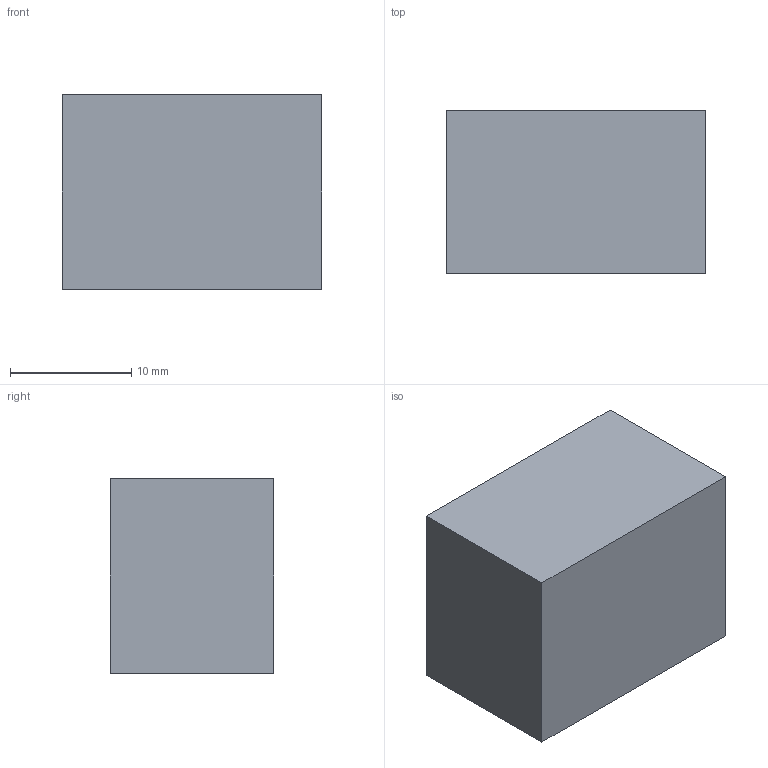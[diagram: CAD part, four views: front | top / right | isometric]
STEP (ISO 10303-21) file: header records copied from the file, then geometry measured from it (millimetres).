
FILE_DESCRIPTION(('Open CASCADE Model'),'2;1');
FILE_NAME('Open CASCADE Shape Model','2026-08-18T10:55:09',('Author'),( 'Open CASCADE'),'Open CASCADE STEP processor 7.9','Open CASCADE 7.9' ,'Unknown');
FILE_SCHEMA(('AUTOMOTIVE_DESIGN { 1 0 10303 214 1 1 1 1 }'));
Length unit declared in the file: millimetre
Products named in the file (1): ethernet_port
Bounding box: 21.45 x 13.5 x 16.1 mm (x, y, z)
Volume: 4662.1 mm3; surface area: 1704.5 mm2
Topology: 1 solids, 1 shells, 6 faces, 12 edges, 8 vertices
Faces by surface type: plane 6
Entity records: 322 total; most frequent: CARTESIAN_POINT 51, DIRECTION 50, LINE 36, VECTOR 36, ORIENTED_EDGE 24, PCURVE 24, DEFINITIONAL_REPRESENTATION 24, EDGE_CURVE 12
